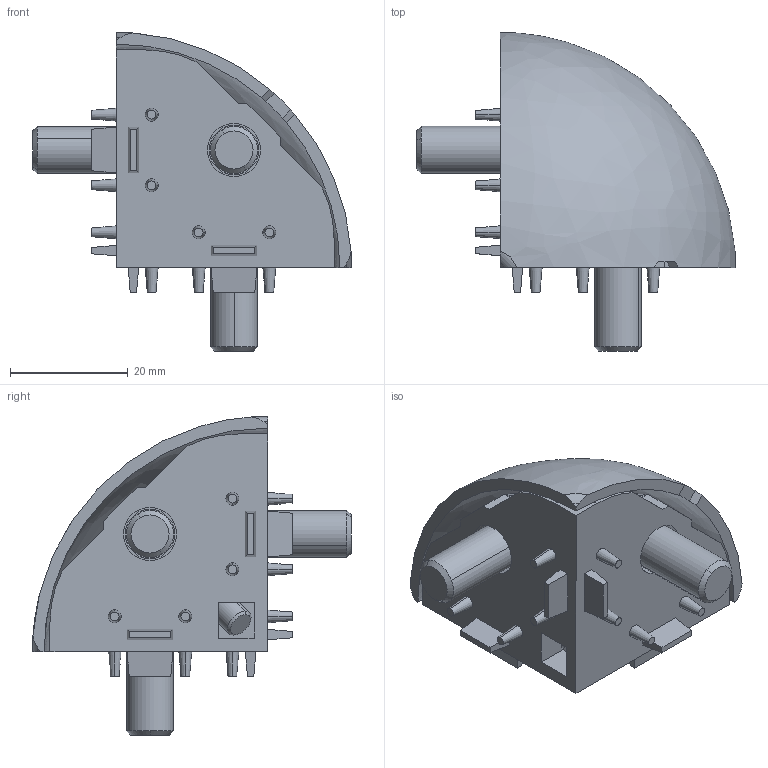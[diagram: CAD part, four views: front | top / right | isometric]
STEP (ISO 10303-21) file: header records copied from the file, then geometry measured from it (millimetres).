
FILE_DESCRIPTION (( 'STEP AP214' ), '1' );
FILE_NAME ('30007-00-0000-00.STEP', '2016-11-21T12:22:25', ( '' ), ( '' ), 'SwSTEP 2.0', 'SolidWorks 2016', '' );
FILE_SCHEMA (( 'AUTOMOTIVE_DESIGN' ));
Length unit declared in the file: millimetre
Products named in the file (5): 10487-01-0000-00_sicherungsscheibem8; 10041-01-0000-00; 10227-01-0000-00; 10116-01-0000-00; 30007-00-0000-00
Assembly tree (8 placements, depth 2):
  30007-00-0000-00
    10116-01-0000-00
    10227-01-0000-00  x3
    10041-01-0000-00
    10487-01-0000-00_sicherungsscheibem8  x3
Bounding box: 54.12 x 54.12 x 54.12 mm (x, y, z)
Volume: 23700.7 mm3; surface area: 17345.6 mm2
Topology: 8 solids, 8 shells, 283 faces, 700 edges, 450 vertices
Faces by surface type: plane 130, cylinder 60, bspline 49, cone 44
Entity records: 10691 total; most frequent: CARTESIAN_POINT 2708, ORIENTED_EDGE 1158, DIRECTION 1016, EDGE_CURVE 579, AXIS2_PLACEMENT_3D 376, VERTEX_POINT 374, VECTOR 264, LINE 264
